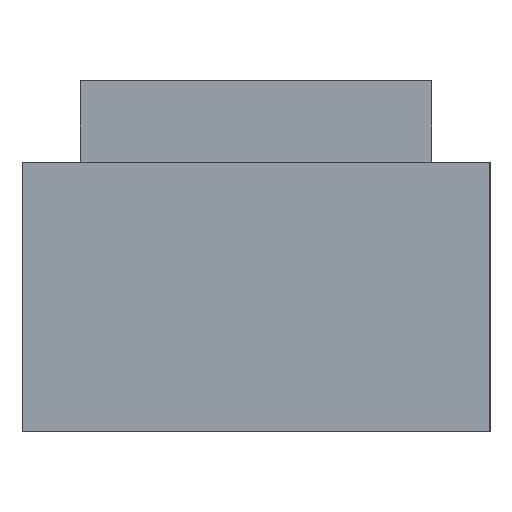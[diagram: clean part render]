
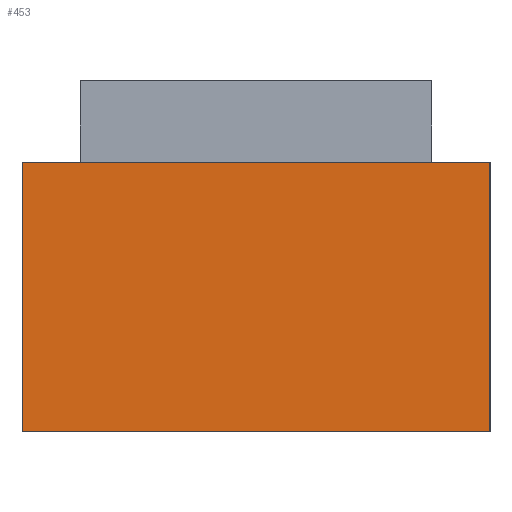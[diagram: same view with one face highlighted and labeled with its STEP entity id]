
A CAD part, left-side view. The second image highlights one B-rep face of the part: STEP entity #453.
In plain terms, the highlighted planar face has unit normal (-1, 0, 0).
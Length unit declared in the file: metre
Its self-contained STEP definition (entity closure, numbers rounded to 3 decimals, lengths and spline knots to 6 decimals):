
#29=LINE('',#698,#77);
#35=LINE('',#710,#83);
#36=LINE('',#712,#84);
#37=LINE('',#714,#85);
#77=VECTOR('',#574,1.);
#83=VECTOR('',#582,1.);
#84=VECTOR('',#583,1.);
#85=VECTOR('',#584,1.);
#115=PLANE('',#500);
#179=ORIENTED_EDGE('',*,*,#277,.T.);
#180=ORIENTED_EDGE('',*,*,#278,.F.);
#181=ORIENTED_EDGE('',*,*,#279,.F.);
#182=ORIENTED_EDGE('',*,*,#271,.T.);
#271=EDGE_CURVE('',#326,#325,#29,.T.);
#277=EDGE_CURVE('',#325,#331,#35,.T.);
#278=EDGE_CURVE('',#332,#331,#36,.T.);
#279=EDGE_CURVE('',#326,#332,#37,.T.);
#325=VERTEX_POINT('',#697);
#326=VERTEX_POINT('',#699);
#331=VERTEX_POINT('',#711);
#332=VERTEX_POINT('',#713);
#374=EDGE_LOOP('',(#179,#180,#181,#182));
#415=FACE_BOUND('',#374,.T.);
#453=ADVANCED_FACE('',(#415),#115,.F.);
#500=AXIS2_PLACEMENT_3D('',#709,#580,#581);
#574=DIRECTION('',(0.,0.,-1.));
#580=DIRECTION('',(1.,0.,0.));
#581=DIRECTION('',(0.,0.,-1.));
#582=DIRECTION('',(0.,-1.,0.));
#583=DIRECTION('',(0.,0.,-1.));
#584=DIRECTION('',(0.,-1.,0.));
#697=CARTESIAN_POINT('',(-0.0435,0.02,0.005));
#698=CARTESIAN_POINT('',(-0.0435,0.02,0.023));
#699=CARTESIAN_POINT('',(-0.0435,0.02,0.028));
#709=CARTESIAN_POINT('',(-0.0435,0.,0.023));
#710=CARTESIAN_POINT('',(-0.0435,0.,0.005));
#711=CARTESIAN_POINT('',(-0.0435,-0.02,0.005));
#712=CARTESIAN_POINT('',(-0.0435,-0.02,0.023));
#713=CARTESIAN_POINT('',(-0.0435,-0.02,0.028));
#714=CARTESIAN_POINT('',(-0.0435,0.,0.028));
